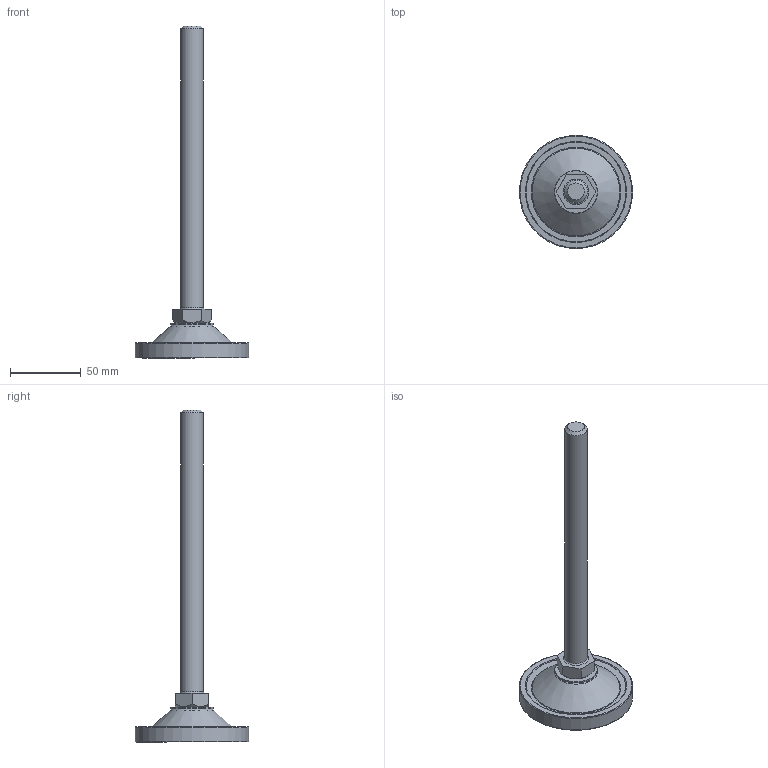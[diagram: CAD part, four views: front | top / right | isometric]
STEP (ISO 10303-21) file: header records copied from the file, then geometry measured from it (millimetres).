
FILE_DESCRIPTION(/* description */ (''),/* implementation_level */ '2;1');
FILE_NAME(/* name */ 'D:\조절자\PFR\PFR-M16-200L.stp',/* time_stamp */ '2016-03-14T15:07:59+09:00',/* author */ ('GS-DT-1-001'),/* organization */ (''),/* preprocessor_version */ 'ST-DEVELOPER v15.6',/* originating_system */ 'Autodesk Inventor LT ',/* authorisation */ '');
FILE_SCHEMA (('AUTOMOTIVE_DESIGN { 1 0 10303 214 3 1 1 }'));
Length unit declared in the file: millimetre
Products named in the file (1): PFR-M16-200L
Bounding box: 80 x 80 x 234.5 mm (x, y, z)
Volume: 91525 mm3; surface area: 39915.2 mm2
Topology: 5 solids, 5 shells, 76 faces, 137 edges, 83 vertices
Faces by surface type: plane 28, torus 24, cone 14, cylinder 10
Full cylindrical faces by diameter (mm): 6.912 x1, 8 x1, 8.2 x1, 8.3 x1, 16 x2, 30 x1, 74 x1, 74.4 x1, 80 x1
Entity records: 1584 total; most frequent: DIRECTION 298, CARTESIAN_POINT 251, ORIENTED_EDGE 168, AXIS2_PLACEMENT_3D 143, EDGE_LOOP 140, EDGE_CURVE 84, VERTEX_POINT 78, FACE_OUTER_BOUND 76
